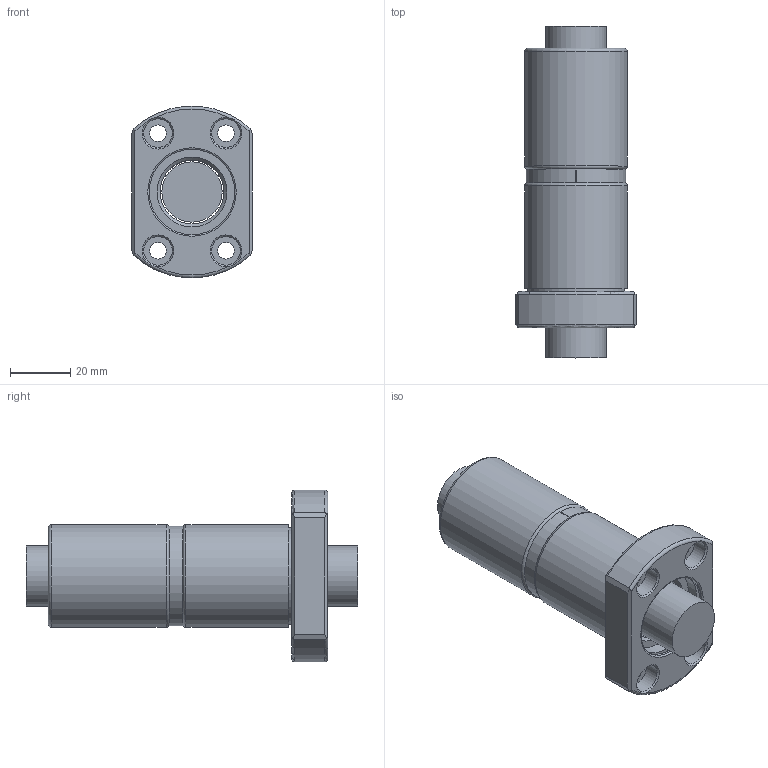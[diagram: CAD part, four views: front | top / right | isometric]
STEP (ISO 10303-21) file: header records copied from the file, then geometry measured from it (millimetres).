
FILE_DESCRIPTION(/* description */ (''),/* implementation_level */ '2;1');
FILE_NAME(/* name */ '2005.prt.step',/* time_stamp */ '2008-12-05T09:21:01+08:00',/* author */ (''),/* organization */ (''),/* preprocessor_version */ 'ST-DEVELOPER v11',/* originating_system */ 'SIEMENS UGS NX 6.0',/* authorisation */ '');
FILE_SCHEMA (('AUTOMOTIVE_DESIGN { 1 0 10303 214 1 1 1 1 }'));
Length unit declared in the file: millimetre
Products named in the file (1): 2005
Bounding box: 40 x 110 x 56.81 mm (x, y, z)
Volume: 92490.7 mm3; surface area: 31343.5 mm2
Topology: 5 solids, 5 shells, 95 faces, 216 edges, 143 vertices
Faces by surface type: plane 40, cylinder 34, cone 11, torus 10
Full cylindrical faces by diameter (mm): 2.1 x8, 5.5 x4, 9.5 x4, 19.95 x1, 21.2 x2, 24 x2, 28.3 x3, 30.7 x1, 32 x1, 34 x2
Entity records: 2594 total; most frequent: CARTESIAN_POINT 610, DIRECTION 418, ORIENTED_EDGE 306, AXIS2_PLACEMENT_3D 189, EDGE_LOOP 172, EDGE_CURVE 153, FACE_BOUND 142, VERTEX_POINT 125
